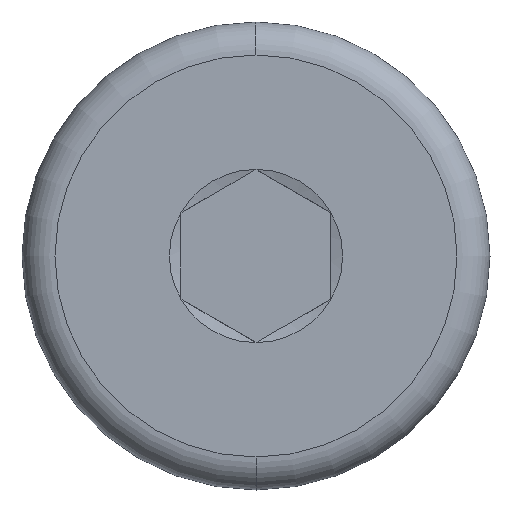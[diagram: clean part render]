
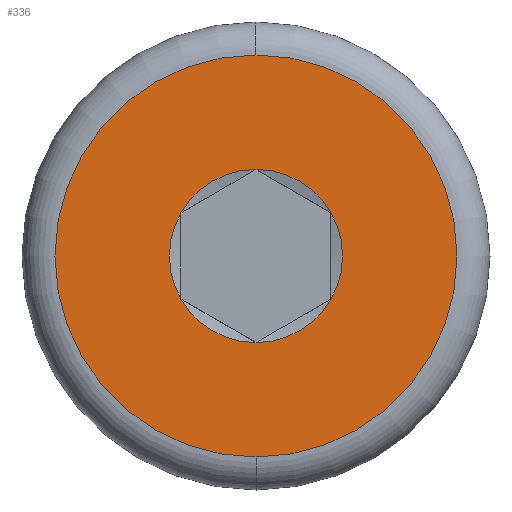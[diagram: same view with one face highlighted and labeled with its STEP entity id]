
A CAD part, left-side view. The second image highlights one B-rep face of the part: STEP entity #336.
In plain terms, the highlighted planar face has unit normal (-1, 0, 0).
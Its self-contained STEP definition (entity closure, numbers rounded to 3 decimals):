
#15 = ORIENTED_EDGE ( 'NONE', *, *, #652, .T. ) ;
#16 = DIRECTION ( 'NONE',  ( 1., 0., 0. ) ) ;
#17 = CARTESIAN_POINT ( 'NONE',  ( 0., 0., 0. ) ) ;
#23 = FACE_BOUND ( 'NONE', #149, .T. ) ;
#24 = CIRCLE ( 'NONE', #238, 2.887 ) ;
#29 = DIRECTION ( 'NONE',  ( 0., 0., -1. ) ) ;
#62 = DIRECTION ( 'NONE',  ( 0., 0., -1. ) ) ;
#71 = PLANE ( 'NONE',  #253 ) ;
#87 = AXIS2_PLACEMENT_3D ( 'NONE', #17, #425, #481 ) ;
#94 = ORIENTED_EDGE ( 'NONE', *, *, #169, .T. ) ;
#100 = AXIS2_PLACEMENT_3D ( 'NONE', #356, #257, #453 ) ;
#102 = DIRECTION ( 'NONE',  ( 0., 0., -1. ) ) ;
#106 = CARTESIAN_POINT ( 'NONE',  ( 0., 0., 0. ) ) ;
#108 = CARTESIAN_POINT ( 'NONE',  ( 0., 0., 0. ) ) ;
#114 = CARTESIAN_POINT ( 'NONE',  ( 0., 2.5, -1.443 ) ) ;
#130 = VERTEX_POINT ( 'NONE', #114 ) ;
#149 = EDGE_LOOP ( 'NONE', ( #200, #493, #346, #281, #15, #94 ) ) ;
#154 = CIRCLE ( 'NONE', #282, 2.887 ) ;
#155 = CIRCLE ( 'NONE', #100, 6.7 ) ;
#169 = EDGE_CURVE ( 'NONE', #130, #454, #393, .T. ) ;
#171 = DIRECTION ( 'NONE',  ( 0., 0., -1. ) ) ;
#175 = CARTESIAN_POINT ( 'NONE',  ( 0., 0., 0. ) ) ;
#194 = EDGE_LOOP ( 'NONE', ( #321, #609 ) ) ;
#200 = ORIENTED_EDGE ( 'NONE', *, *, #550, .T. ) ;
#202 = DIRECTION ( 'NONE',  ( 1., 0., 0. ) ) ;
#205 = CARTESIAN_POINT ( 'NONE',  ( 0., 0., -2.887 ) ) ;
#206 = CARTESIAN_POINT ( 'NONE',  ( 0., 0., 2.887 ) ) ;
#211 = CARTESIAN_POINT ( 'NONE',  ( 0., 0., 0. ) ) ;
#212 = CARTESIAN_POINT ( 'NONE',  ( 0., 0., 0. ) ) ;
#227 = FACE_OUTER_BOUND ( 'NONE', #194, .T. ) ;
#228 = EDGE_CURVE ( 'NONE', #437, #467, #24, .T. ) ;
#236 = VERTEX_POINT ( 'NONE', #205 ) ;
#238 = AXIS2_PLACEMENT_3D ( 'NONE', #570, #202, #102 ) ;
#250 = VERTEX_POINT ( 'NONE', #468 ) ;
#251 = EDGE_CURVE ( 'NONE', #355, #236, #154, .T. ) ;
#253 = AXIS2_PLACEMENT_3D ( 'NONE', #648, #534, #386 ) ;
#257 = DIRECTION ( 'NONE',  ( 1., 0., 0. ) ) ;
#269 = CIRCLE ( 'NONE', #655, 6.7 ) ;
#273 = CARTESIAN_POINT ( 'NONE',  ( 0., 0., 6.7 ) ) ;
#281 = ORIENTED_EDGE ( 'NONE', *, *, #251, .T. ) ;
#282 = AXIS2_PLACEMENT_3D ( 'NONE', #211, #16, #171 ) ;
#283 = CARTESIAN_POINT ( 'NONE',  ( 0., -2.5, -1.443 ) ) ;
#314 = DIRECTION ( 'NONE',  ( 0., 0., -1. ) ) ;
#319 = EDGE_CURVE ( 'NONE', #547, #250, #269, .T. ) ;
#321 = ORIENTED_EDGE ( 'NONE', *, *, #433, .F. ) ;
#328 = DIRECTION ( 'NONE',  ( 0., 0., -1. ) ) ;
#336 = ADVANCED_FACE ( 'NONE', ( #23, #227 ), #71, .T. ) ;
#346 = ORIENTED_EDGE ( 'NONE', *, *, #509, .T. ) ;
#355 = VERTEX_POINT ( 'NONE', #283 ) ;
#356 = CARTESIAN_POINT ( 'NONE',  ( 0., 0., 0. ) ) ;
#383 = CIRCLE ( 'NONE', #87, 2.887 ) ;
#386 = DIRECTION ( 'NONE',  ( 0., 0., 1. ) ) ;
#393 = CIRCLE ( 'NONE', #524, 2.887 ) ;
#422 = DIRECTION ( 'NONE',  ( 1., 0., 0. ) ) ;
#425 = DIRECTION ( 'NONE',  ( 1., 0., 0. ) ) ;
#429 = CIRCLE ( 'NONE', #644, 2.887 ) ;
#433 = EDGE_CURVE ( 'NONE', #250, #547, #155, .T. ) ;
#437 = VERTEX_POINT ( 'NONE', #206 ) ;
#453 = DIRECTION ( 'NONE',  ( 0., 0., -1. ) ) ;
#454 = VERTEX_POINT ( 'NONE', #504 ) ;
#467 = VERTEX_POINT ( 'NONE', #511 ) ;
#468 = CARTESIAN_POINT ( 'NONE',  ( 0., 0., -6.7 ) ) ;
#472 = DIRECTION ( 'NONE',  ( 1., 0., 0. ) ) ;
#481 = DIRECTION ( 'NONE',  ( 0., 0., -1. ) ) ;
#493 = ORIENTED_EDGE ( 'NONE', *, *, #228, .T. ) ;
#495 = DIRECTION ( 'NONE',  ( 1., 0., 0. ) ) ;
#504 = CARTESIAN_POINT ( 'NONE',  ( 0., 2.5, 1.443 ) ) ;
#509 = EDGE_CURVE ( 'NONE', #467, #355, #383, .T. ) ;
#511 = CARTESIAN_POINT ( 'NONE',  ( 0., -2.5, 1.443 ) ) ;
#524 = AXIS2_PLACEMENT_3D ( 'NONE', #108, #472, #314 ) ;
#534 = DIRECTION ( 'NONE',  ( -1., 0., 0. ) ) ;
#547 = VERTEX_POINT ( 'NONE', #273 ) ;
#550 = EDGE_CURVE ( 'NONE', #454, #437, #429, .T. ) ;
#570 = CARTESIAN_POINT ( 'NONE',  ( 0., 0., 0. ) ) ;
#594 = CIRCLE ( 'NONE', #646, 2.887 ) ;
#596 = DIRECTION ( 'NONE',  ( 1., 0., 0. ) ) ;
#609 = ORIENTED_EDGE ( 'NONE', *, *, #319, .F. ) ;
#644 = AXIS2_PLACEMENT_3D ( 'NONE', #212, #422, #62 ) ;
#646 = AXIS2_PLACEMENT_3D ( 'NONE', #106, #495, #29 ) ;
#648 = CARTESIAN_POINT ( 'NONE',  ( 0., 0., 0. ) ) ;
#652 = EDGE_CURVE ( 'NONE', #236, #130, #594, .T. ) ;
#655 = AXIS2_PLACEMENT_3D ( 'NONE', #175, #596, #328 ) ;
